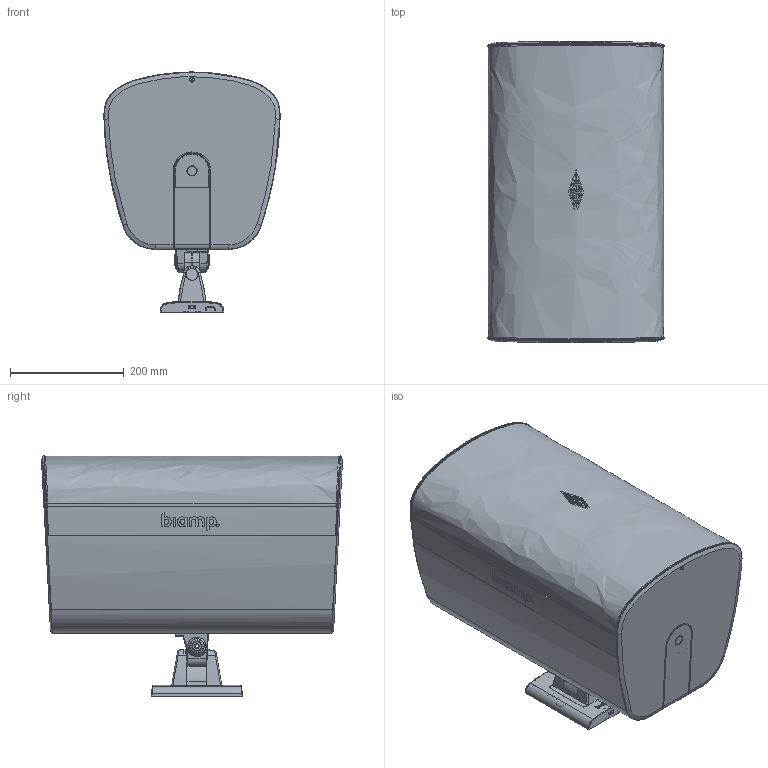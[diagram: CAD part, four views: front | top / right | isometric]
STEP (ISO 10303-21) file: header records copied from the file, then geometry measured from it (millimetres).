
FILE_DESCRIPTION (( 'STEP AP203' ), '1' );
FILE_NAME ('DESONO EX-S10 CM OPT.90A.step', '2021-12-28T01:25:58', ( '' ), ( '' ), 'SwSTEP 2.0', 'SolidWorks 2021', '' );
FILE_SCHEMA (( 'CONFIG_CONTROL_DESIGN' ));
Length unit declared in the file: millimetre
Products named in the file (3): DESONO EX-S10 CM OPT; DESONO EX-S10 CM OPT.90A; 368.0315
Assembly tree (2 placements, depth 2):
  DESONO EX-S10 CM OPT.90A
    DESONO EX-S10 CM OPT
    368.0315
Bounding box: 309.64 x 529.1 x 422.19 mm (x, y, z)
Volume: 181797.1 mm3; surface area: 1126028.1 mm2
Topology: 1 solids, 165 shells, 1651 faces, 7517 edges, 5955 vertices
Faces by surface type: plane 674, cylinder 580, bspline 369, cone 24, sphere 4
Entity records: 118937 total; most frequent: CARTESIAN_POINT 68602, ORIENTED_EDGE 11182, EDGE_CURVE 7495, DIRECTION 6498, VERTEX_POINT 5955, B_SPLINE_CURVE_WITH_KNOTS 3675, LINE 2872, VECTOR 2872
